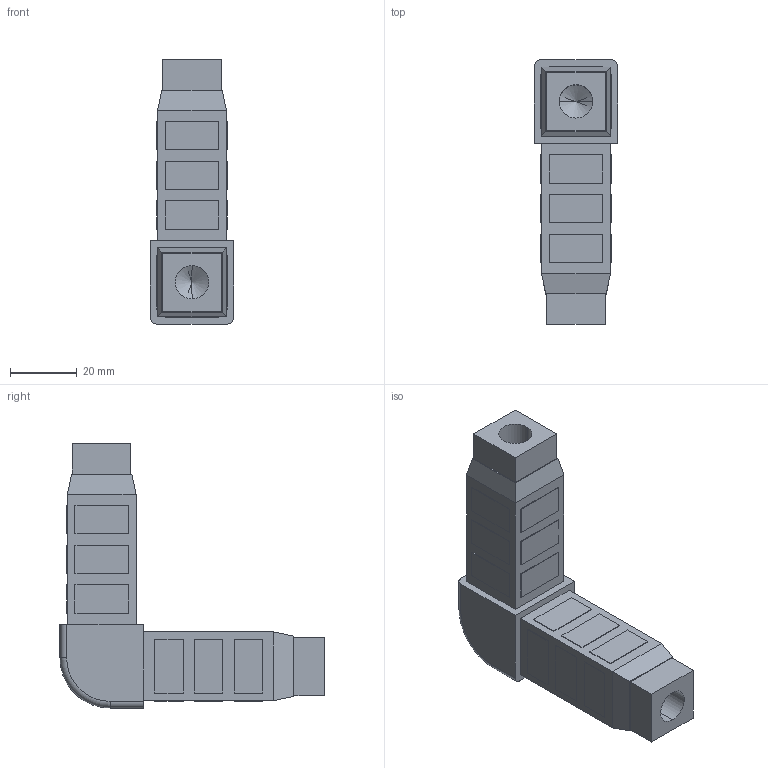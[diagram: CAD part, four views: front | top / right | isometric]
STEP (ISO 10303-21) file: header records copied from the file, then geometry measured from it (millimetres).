
FILE_DESCRIPTION (( 'STEP AP203' ), '1' );
FILE_NAME ('F025115.STEP', '2017-03-22T12:38:52', ( 'Localadmin' ), ( 'Microsoft' ), 'SwSTEP 2.0', 'SolidWorks 2016', '' );
FILE_SCHEMA (( 'CONFIG_CONTROL_DESIGN' ));
Length unit declared in the file: millimetre
Products named in the file (1): F025115
Bounding box: 25 x 79 x 79 mm (x, y, z)
Volume: 48515.4 mm3; surface area: 31730.6 mm2
Topology: 2 solids, 2 shells, 175 faces, 419 edges, 272 vertices
Faces by surface type: plane 158, cylinder 11, cone 4, torus 2
Entity records: 5020 total; most frequent: CARTESIAN_POINT 863, ORIENTED_EDGE 830, DIRECTION 791, EDGE_CURVE 415, LINE 391, VECTOR 391, VERTEX_POINT 272, EDGE_LOOP 205
